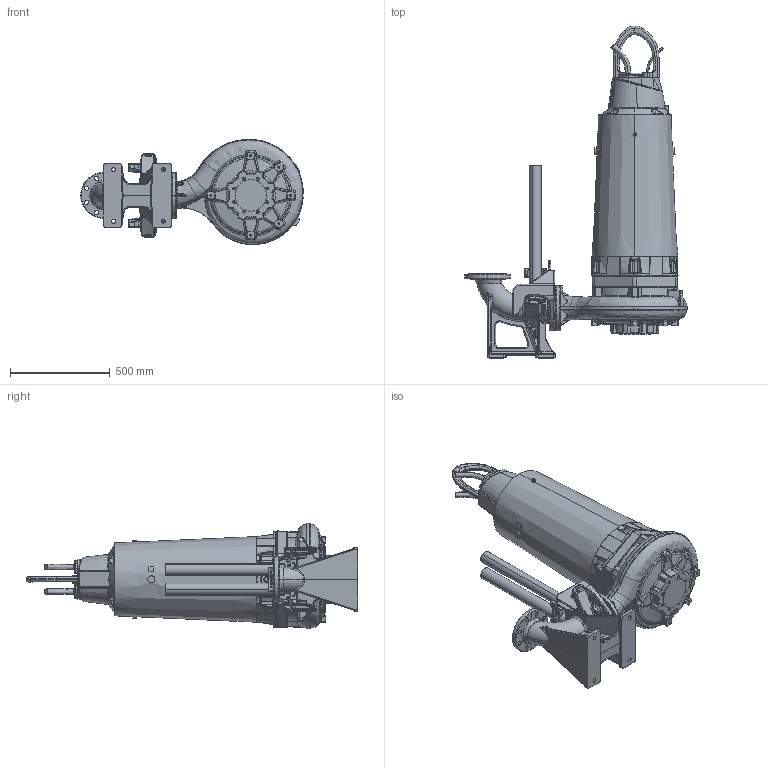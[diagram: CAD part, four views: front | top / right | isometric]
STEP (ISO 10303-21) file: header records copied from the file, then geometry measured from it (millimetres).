
FILE_DESCRIPTION (( 'STEP AP214' ), '1' );
FILE_NAME ('PE4_XFP100J-CH1_WET 2guide_B_NG2.STEP', '2017-02-23T07:35:33', ( '' ), ( '' ), 'SwSTEP 2.0', 'SolidWorks 2017', '' );
FILE_SCHEMA (( 'AUTOMOTIVE_DESIGN' ));
Length unit declared in the file: millimetre
Products named in the file (1): PE4_XFP100J-CH1_WET 2guide_B_NG2
Bounding box: 1118.28 x 1667.4 x 529.04 mm (x, y, z)
Volume: 178087818 mm3; surface area: 3707873.2 mm2
Topology: 4 solids, 12 shells, 3859 faces, 9449 edges, 5513 vertices
Faces by surface type: bspline 1306, cylinder 914, plane 813, torus 351, cone 334, sphere 141
Entity records: 249691 total; most frequent: CARTESIAN_POINT 127416, ORIENTED_EDGE 18558, DIRECTION 14405, EDGE_CURVE 9279, AXIS2_PLACEMENT_3D 5857, VERTEX_POINT 5509, EDGE_LOOP 4000, UNCERTAINTY_MEASURE_WITH_UNIT 3865
